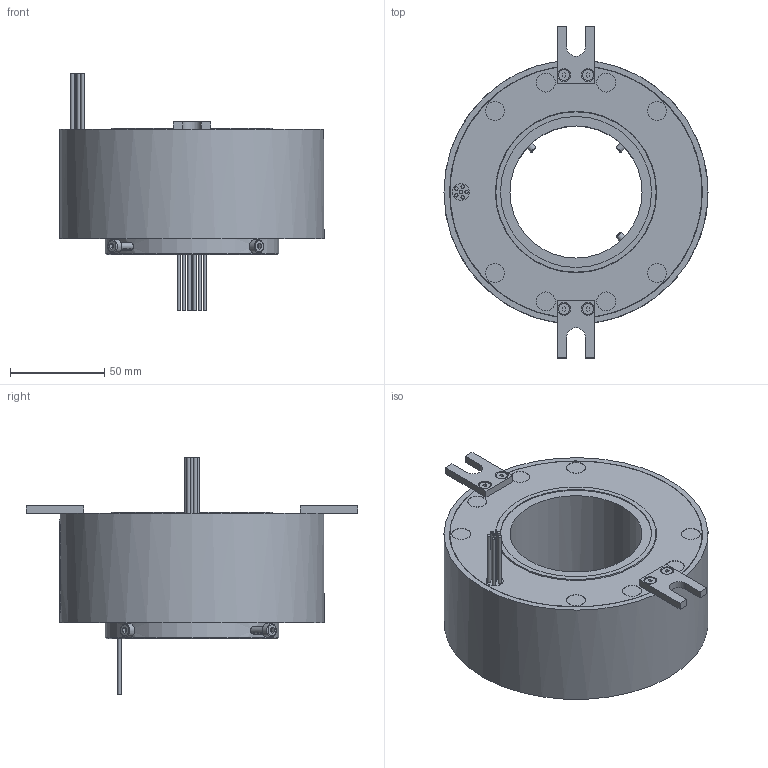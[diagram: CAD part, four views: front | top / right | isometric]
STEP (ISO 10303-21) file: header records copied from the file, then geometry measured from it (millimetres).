
FILE_DESCRIPTION(/* description */ (''),/* implementation_level */ '2;1');
FILE_NAME(/* name */ 'YD70140-0610-3D模型.stp',/* time_stamp */ '2025-09-04T15:25:06+08:00',/* author */ (''),/* organization */ (''),/* preprocessor_version */ 'ST-DEVELOPER v16.7',/* originating_system */ 'SIEMENS PLM Software NX 12.0',/* authorisation */ '');
FILE_SCHEMA (('AUTOMOTIVE_DESIGN { 1 0 10303 214 3 1 1 1 }'));
Length unit declared in the file: millimetre
Products named in the file (1): AdmiB53CE2DD1ym9
Bounding box: 140 x 176 x 126 mm (x, y, z)
Volume: 698730.6 mm3; surface area: 73271.7 mm2
Topology: 1 solids, 5 shells, 945 faces, 2518 edges, 1676 vertices
Faces by surface type: extrusion 452, plane 362, cylinder 78, bspline 33, cone 16, torus 4
Full cylindrical faces by diameter (mm): 1.8 x12, 3 x4, 3.4 x1, 3.5 x4, 4 x7, 6 x4, 7 x4, 9 x1, 10 x8, 70 x1, 80 x1, 85 x1, 85.5 x1, 92 x1, 133.8 x2, 134 x2, 140 x1
Entity records: 36903 total; most frequent: CARTESIAN_POINT 17169, ORIENTED_EDGE 4800, EDGE_CURVE 2400, DIRECTION 2308, B_SPLINE_CURVE_WITH_KNOTS 2203, VERTEX_POINT 1637, EDGE_LOOP 1125, ADVANCED_FACE 942
